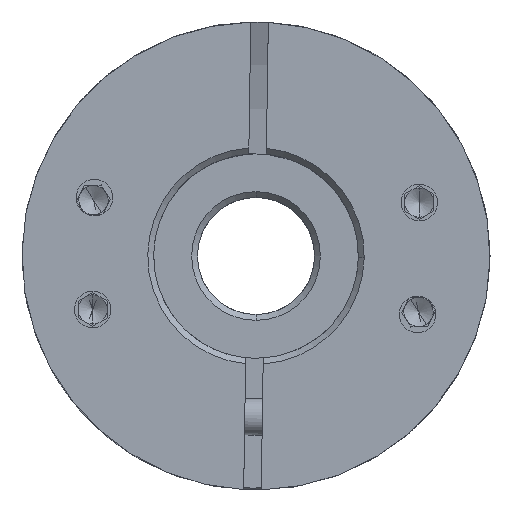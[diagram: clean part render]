
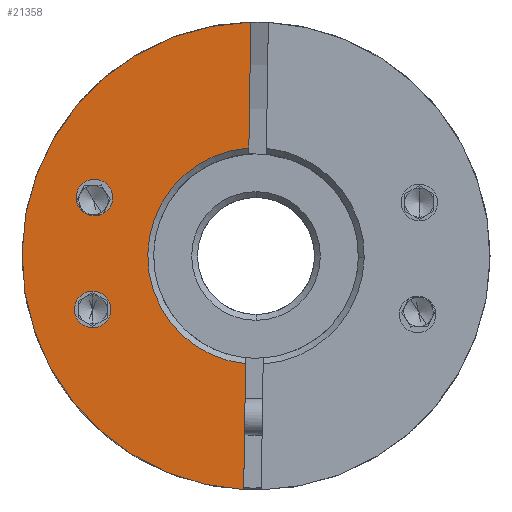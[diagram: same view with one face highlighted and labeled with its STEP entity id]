
A CAD part, front view. The second image highlights one B-rep face of the part: STEP entity #21358.
In plain terms, the highlighted planar face has unit normal (0, -1, 0).
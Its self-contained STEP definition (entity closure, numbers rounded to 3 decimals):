
#125 = AXIS2_PLACEMENT_3D ( 'NONE', #11140, #5364, #20165 ) ;
#448 = AXIS2_PLACEMENT_3D ( 'NONE', #13137, #18865, #22243 ) ;
#820 = CARTESIAN_POINT ( 'NONE',  ( -70.345, -19.411, -3.656 ) ) ;
#830 = EDGE_CURVE ( 'NONE', #8600, #24016, #11916, .T. ) ;
#864 = CARTESIAN_POINT ( 'NONE',  ( -75.176, -19.411, 0.243 ) ) ;
#1022 = DIRECTION ( 'NONE',  ( 0., -1., 0. ) ) ;
#1199 = CARTESIAN_POINT ( 'NONE',  ( -59.89, -19.411, -7.366 ) ) ;
#1285 = CARTESIAN_POINT ( 'NONE',  ( -60.021, -19.411, -15.978 ) ) ;
#1525 = VERTEX_POINT ( 'NONE', #10670 ) ;
#1590 = EDGE_CURVE ( 'NONE', #3816, #24016, #6057, .T. ) ;
#1866 = VECTOR ( 'NONE', #21927, 1000. ) ;
#2046 = AXIS2_PLACEMENT_3D ( 'NONE', #12170, #1022, #13728 ) ;
#2987 = DIRECTION ( 'NONE',  ( 1., 0., -0.015 ) ) ;
#3319 = EDGE_LOOP ( 'NONE', ( #10790, #11218, #9974, #8057, #8357 ) ) ;
#3816 = VERTEX_POINT ( 'NONE', #864 ) ;
#4175 = EDGE_CURVE ( 'NONE', #22854, #10465, #7108, .T. ) ;
#4696 = CARTESIAN_POINT ( 'NONE',  ( -59.178, -19.411, 0. ) ) ;
#4858 = EDGE_CURVE ( 'NONE', #10465, #22854, #19659, .T. ) ;
#5364 = DIRECTION ( 'NONE',  ( 0., -1., 0. ) ) ;
#6016 = EDGE_CURVE ( 'NONE', #8600, #6523, #12224, .T. ) ;
#6057 = CIRCLE ( 'NONE', #125, 16. ) ;
#6247 = LINE ( 'NONE', #7021, #1866 ) ;
#6397 = CARTESIAN_POINT ( 'NONE',  ( -68.979, -19.411, 3.975 ) ) ;
#6523 = VERTEX_POINT ( 'NONE', #11665 ) ;
#6689 = DIRECTION ( 'NONE',  ( 0., 1., 0. ) ) ;
#6746 = CIRCLE ( 'NONE', #7011, 16. ) ;
#7011 = AXIS2_PLACEMENT_3D ( 'NONE', #4696, #23504, #2987 ) ;
#7021 = CARTESIAN_POINT ( 'NONE',  ( -59.687, -19.411, 6.008 ) ) ;
#7108 = CIRCLE ( 'NONE', #22267, 1.25 ) ;
#8057 = ORIENTED_EDGE ( 'NONE', *, *, #11327, .T. ) ;
#8287 = AXIS2_PLACEMENT_3D ( 'NONE', #15607, #21134, #9962 ) ;
#8357 = ORIENTED_EDGE ( 'NONE', *, *, #1590, .T. ) ;
#8546 = DIRECTION ( 'NONE',  ( 1., 0., -0.015 ) ) ;
#8600 = VERTEX_POINT ( 'NONE', #1199 ) ;
#8650 = ORIENTED_EDGE ( 'NONE', *, *, #4858, .T. ) ;
#9337 = CARTESIAN_POINT ( 'NONE',  ( -59.178, -19.411, 0. ) ) ;
#9437 = CIRCLE ( 'NONE', #448, 1.25 ) ;
#9556 = CARTESIAN_POINT ( 'NONE',  ( -71.595, -19.411, -3.637 ) ) ;
#9962 = DIRECTION ( 'NONE',  ( 1., 0., -0.015 ) ) ;
#9974 = ORIENTED_EDGE ( 'NONE', *, *, #15715, .F. ) ;
#10274 = CARTESIAN_POINT ( 'NONE',  ( -70.229, -19.411, 3.994 ) ) ;
#10465 = VERTEX_POINT ( 'NONE', #6397 ) ;
#10670 = CARTESIAN_POINT ( 'NONE',  ( -59.535, -19.411, 15.996 ) ) ;
#10790 = ORIENTED_EDGE ( 'NONE', *, *, #830, .F. ) ;
#11140 = CARTESIAN_POINT ( 'NONE',  ( -59.178, -19.411, 0. ) ) ;
#11218 = ORIENTED_EDGE ( 'NONE', *, *, #6016, .T. ) ;
#11327 = EDGE_CURVE ( 'NONE', #1525, #3816, #6746, .T. ) ;
#11341 = EDGE_LOOP ( 'NONE', ( #12222, #14227 ) ) ;
#11665 = CARTESIAN_POINT ( 'NONE',  ( -59.666, -19.411, 7.384 ) ) ;
#11688 = VERTEX_POINT ( 'NONE', #9556 ) ;
#11916 = LINE ( 'NONE', #13502, #16332 ) ;
#12170 = CARTESIAN_POINT ( 'NONE',  ( -59.178, -19.411, 0. ) ) ;
#12222 = ORIENTED_EDGE ( 'NONE', *, *, #15836, .T. ) ;
#12224 = CIRCLE ( 'NONE', #14408, 7.4 ) ;
#13103 = DIRECTION ( 'NONE',  ( 0., 1., 0. ) ) ;
#13137 = CARTESIAN_POINT ( 'NONE',  ( -70.345, -19.411, -3.656 ) ) ;
#13152 = AXIS2_PLACEMENT_3D ( 'NONE', #820, #6689, #8546 ) ;
#13316 = CIRCLE ( 'NONE', #13152, 1.25 ) ;
#13502 = CARTESIAN_POINT ( 'NONE',  ( -59.687, -19.411, 6.008 ) ) ;
#13728 = DIRECTION ( 'NONE',  ( 1., 0., -0.015 ) ) ;
#13941 = FACE_OUTER_BOUND ( 'NONE', #3319, .T. ) ;
#13990 = CARTESIAN_POINT ( 'NONE',  ( -71.479, -19.411, 4.013 ) ) ;
#14227 = ORIENTED_EDGE ( 'NONE', *, *, #21943, .T. ) ;
#14408 = AXIS2_PLACEMENT_3D ( 'NONE', #9337, #13103, #16878 ) ;
#15607 = CARTESIAN_POINT ( 'NONE',  ( -70.229, -19.411, 3.994 ) ) ;
#15715 = EDGE_CURVE ( 'NONE', #1525, #6523, #6247, .T. ) ;
#15836 = EDGE_CURVE ( 'NONE', #11688, #24164, #9437, .T. ) ;
#16004 = FACE_BOUND ( 'NONE', #11341, .T. ) ;
#16332 = VECTOR ( 'NONE', #21069, 1000. ) ;
#16596 = FACE_BOUND ( 'NONE', #21319, .T. ) ;
#16767 = ORIENTED_EDGE ( 'NONE', *, *, #4175, .T. ) ;
#16878 = DIRECTION ( 'NONE',  ( 1., 0., -0.015 ) ) ;
#18865 = DIRECTION ( 'NONE',  ( 0., 1., 0. ) ) ;
#19659 = CIRCLE ( 'NONE', #8287, 1.25 ) ;
#19718 = PLANE ( 'NONE',  #2046 ) ;
#20165 = DIRECTION ( 'NONE',  ( 1., 0., -0.015 ) ) ;
#20653 = CARTESIAN_POINT ( 'NONE',  ( -69.095, -19.411, -3.675 ) ) ;
#21069 = DIRECTION ( 'NONE',  ( -0.015, 0., -1. ) ) ;
#21134 = DIRECTION ( 'NONE',  ( 0., 1., 0. ) ) ;
#21319 = EDGE_LOOP ( 'NONE', ( #16767, #8650 ) ) ;
#21358 = ADVANCED_FACE ( 'NONE', ( #13941, #16596, #16004 ), #19718, .T. ) ;
#21927 = DIRECTION ( 'NONE',  ( -0.015, 0., -1. ) ) ;
#21943 = EDGE_CURVE ( 'NONE', #24164, #11688, #13316, .T. ) ;
#22243 = DIRECTION ( 'NONE',  ( 1., 0., -0.015 ) ) ;
#22267 = AXIS2_PLACEMENT_3D ( 'NONE', #10274, #23456, #23381 ) ;
#22854 = VERTEX_POINT ( 'NONE', #13990 ) ;
#23381 = DIRECTION ( 'NONE',  ( 1., 0., -0.015 ) ) ;
#23456 = DIRECTION ( 'NONE',  ( 0., 1., 0. ) ) ;
#23504 = DIRECTION ( 'NONE',  ( 0., -1., 0. ) ) ;
#24016 = VERTEX_POINT ( 'NONE', #1285 ) ;
#24164 = VERTEX_POINT ( 'NONE', #20653 ) ;
